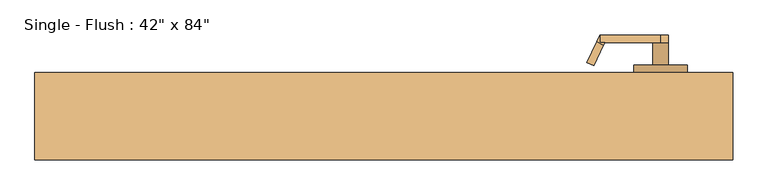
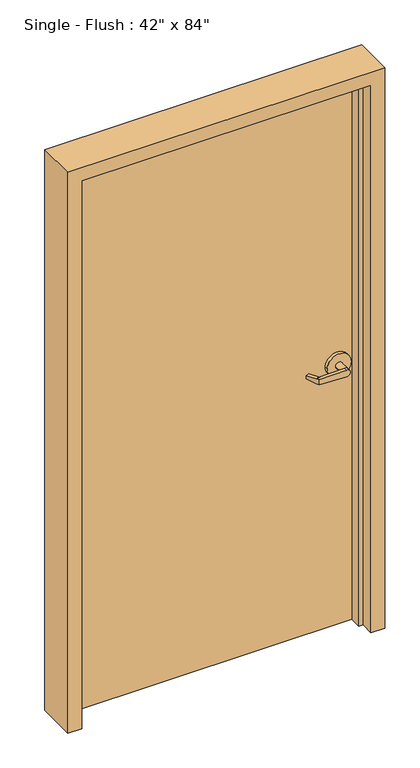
"""IFC4 building model written with IfcOpenShell, lengths in millimetres: door geometry."""

from ifc_helpers import new_model, si_unit, frame, origin, origin_with_axes, place, context, project, spatial, polyline, circle_curve, outline, extrude, faceted_brep, source, transform, mapped, element, save
from ifc_brep_helpers import plane_surface, cylinder_surface, advanced_brep


def door_364cf94f(model_context):
    return source(origin(), model_context, "Body", "SolidModel", [
        advanced_brep(
        [(952.292857, -24.3976392, 1006.475), (936.1911012, 10.1326875, 1009.65), (936.1911012, 10.1326875, 1022.35), (952.292857, -24.3976392, 1025.525), (954.2407923, -28.575, 1025.525), (954.2407923, -28.575, 1006.475), (946.15, -41.275, 1025.525), (940.7827481, -29.7648911, 1025.525), (924.6809923, 4.7654356, 1022.35), (924.6809923, 4.7654356, 1009.65), (940.7827481, -29.7648911, 1006.475), (946.15, -41.275, 1006.475), (946.15, -28.575, 1006.475), (946.15, -28.575, 1025.525), (1047.3525418, -41.275, 1003.3062209), (1047.3525418, -41.275, 1028.6937791), (1047.3525418, -28.575, 1028.6937791), (1035.05, -28.575, 1016.0), (1047.3525418, -28.575, 1003.3062209), (1060.45, -28.575, 1016.0), (1060.45, 9.525, 1016.0), (1035.05, 9.525, 1016.0), (1092.2, 9.525, 1016.0), (1003.3, 9.525, 1016.0), (1092.2, 22.225, 1016.0), (1003.3, 22.225, 1016.0)],
        [
            (0, 1),
            (1, 2),
            (2, 3),
            (3, 4),
            (4, 5),
            (5, 0),
            (6, 7),
            (7, 8),
            (8, 9),
            (9, 10),
            (10, 11),
            (11, 6),
            (10, 0),
            (5, 12),
            (12, 11),
            (9, 1),
            (8, 2),
            (7, 3),
            (6, 13),
            (13, 4),
            (11, 14),
            (14, 15, circle_curve(frame((1047.75, -41.275, 1016.0), z_axis=(0.0, -1.0, 0.0), x_axis=(-1.0, 0.0, 0.0)), 12.7)),
            (15, 6),
            (13, 16),
            (16, 17, circle_curve(frame((1047.75, -28.575, 1016.0), z_axis=(0.0, -1.0, 0.0), x_axis=(-1.0, 0.0, 0.0)), 12.7)),
            (17, 18, circle_curve(frame((1047.75, -28.575, 1016.0), z_axis=(0.0, -1.0, 0.0), x_axis=(-1.0, 0.0, 0.0)), 12.7)),
            (18, 12),
            (18, 14),
            (18, 19, circle_curve(frame((1047.75, -28.575, 1016.0), z_axis=(0.0, -1.0, 0.0), x_axis=(-1.0, 0.0, 0.0)), 12.7)),
            (19, 16, circle_curve(frame((1047.75, -28.575, 1016.0), z_axis=(0.0, -1.0, 0.0), x_axis=(-1.0, 0.0, 0.0)), 12.7)),
            (16, 15),
            (19, 20),
            (20, 21, circle_curve(frame((1047.75, 9.525, 1016.0), z_axis=(0.0, -1.0, 0.0), x_axis=(-1.0, 0.0, 0.0)), 12.7)),
            (21, 17),
            (21, 20, circle_curve(frame((1047.75, 9.525, 1016.0), z_axis=(0.0, -1.0, 0.0), x_axis=(-1.0, 0.0, 0.0)), 12.7)),
            (22, 23, circle_curve(frame((1047.75, 9.525, 1016.0), z_axis=(0.0, -1.0, 0.0), x_axis=(-1.0, 0.0, 0.0)), 44.45)),
            (23, 22, circle_curve(frame((1047.75, 9.525, 1016.0), z_axis=(0.0, -1.0, 0.0), x_axis=(-1.0, 0.0, 0.0)), 44.45)),
            (24, 25, circle_curve(frame((1047.75, 22.225, 1016.0), z_axis=(0.0, 1.0, 0.0), x_axis=(-1.0, 0.0, 0.0)), 44.45)),
            (25, 24, circle_curve(frame((1047.75, 22.225, 1016.0), z_axis=(0.0, 1.0, 0.0), x_axis=(-1.0, 0.0, 0.0)), 44.45)),
            (22, 24),
            (25, 23),
        ],
        [
            plane_surface(frame((957.6601089, -35.9077481, 1006.475), z_axis=(0.9063077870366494, 0.4226182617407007, 0.0), x_axis=(0.0, 0.0, -1.0))),
            plane_surface(frame((946.15, -41.275, 1006.475), z_axis=(-0.9063077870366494, -0.4226182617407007, 0.0), x_axis=(0.0, 0.0, 1.0))),
            plane_surface(frame((957.6601089, -35.9077481, 1006.475), z_axis=(0.0, 0.0, -1.0000000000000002), x_axis=(-0.9063077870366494, -0.42261826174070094, 0.0))),
            plane_surface(frame((952.292857, -24.3976392, 1006.475), z_axis=(-0.035096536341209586, 0.07526476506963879, -0.9965457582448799), x_axis=(-0.9063077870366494, -0.42261826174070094, 0.0))),
            plane_surface(frame((936.1911012, 10.1326875, 1009.65), z_axis=(-0.42261826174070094, 0.9063077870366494, 0.0), x_axis=(-0.9063077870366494, -0.42261826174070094, 0.0))),
            plane_surface(frame((936.1911012, 10.1326875, 1022.35), z_axis=(-0.03509653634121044, 0.07526476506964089, 0.9965457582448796), x_axis=(-0.9063077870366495, -0.42261826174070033, 0.0))),
            plane_surface(frame((952.292857, -24.3976392, 1025.525), z_axis=(0.0, 0.0, 1.0000000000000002), x_axis=(-0.9063077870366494, -0.42261826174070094, 0.0))),
            plane_surface(frame((946.15, -41.275, 1006.475), z_axis=(0.0, -1.0, 0.0), x_axis=(0.9995101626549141, 0.0, -0.03129592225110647))),
            plane_surface(frame((946.15, -28.575, 1006.475), z_axis=(0.0, 1.0, 0.0), x_axis=(-0.9995101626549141, 0.0, 0.03129592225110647))),
            plane_surface(frame((946.15, -41.275, 1006.475), z_axis=(-0.03129592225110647, 0.0, -0.9995101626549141), x_axis=(0.0, 1.0, 0.0))),
            cylinder_surface(frame((1047.75, -28.575, 1016.0), z_axis=(0.0, -1.0, 0.0), x_axis=(-1.0, 0.0, 0.0)), 12.7),
            plane_surface(frame((1047.3525418, -41.275, 1028.6937791), z_axis=(-0.03129592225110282, 0.0, 0.9995101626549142), x_axis=(0.0, 1.0, 0.0))),
            cylinder_surface(frame((1047.75, 9.525, 1016.0), z_axis=(0.0, -1.0, 0.0), x_axis=(-1.0, 0.0, 0.0)), 12.7),
            plane_surface(frame((1003.3, 9.525, 1016.0), z_axis=(0.0, -1.0, 0.0), x_axis=(0.0, 0.0, -1.0))),
            plane_surface(frame((1003.3, 22.225, 1016.0), z_axis=(0.0, 1.0, 0.0), x_axis=(0.0, 0.0, 1.0))),
            cylinder_surface(frame((1047.75, 22.225, 1016.0), z_axis=(0.0, -1.0, 0.0), x_axis=(-1.0, 0.0, 0.0)), 44.45),
        ],
        [
            (0, [[1, 2, 3, 4, 5, 6]]),
            (1, [[7, 8, 9, 10, 11, 12]]),
            (2, [[-11, 13, -6, 14, 15]]),
            (3, [[-1, -13, -10, 16]]),
            (4, [[-2, -16, -9, 17]]),
            (5, [[-3, -17, -8, 18]]),
            (6, [[-7, 19, 20, -4, -18]]),
            (7, [[21, 22, 23, -12]]),
            (8, [[24, 25, 26, 27, -14, -5, -20]]),
            (9, [[-21, -15, -27, 28]]),
            (10, [[-22, -28, 29, 30, 31]]),
            (11, [[-23, -31, -24, -19]]),
            (12, [[32, 33, 34, -25, -30]]),
            (12, [[-32, -29, -26, -34, 35]]),
            (13, [[36, 37], [-33, -35]]),
            (14, [[38, 39]]),
            (15, [[-36, 40, -39, 41]]),
            (15, [[-37, -41, -38, -40]]),
        ],
    ),
        advanced_brep(
        [(952.292857, 119.6476392, 1025.525), (936.1911012, 85.1173125, 1022.35), (936.1911012, 85.1173125, 1009.65), (952.292857, 119.6476392, 1006.475), (954.2407923, 123.825, 1006.475), (954.2407923, 123.825, 1025.525), (946.15, 136.525, 1006.475), (940.7827481, 125.0148911, 1006.475), (924.6809923, 90.4845644, 1009.65), (924.6809923, 90.4845644, 1022.35), (940.7827481, 125.0148911, 1025.525), (946.15, 136.525, 1025.525), (946.15, 123.825, 1025.525), (946.15, 123.825, 1006.475), (1047.3525418, 136.525, 1028.6937791), (1047.3525418, 136.525, 1003.3062209), (1047.3525418, 123.825, 1003.3062209), (1035.05, 123.825, 1016.0), (1047.3525418, 123.825, 1028.6937791), (1060.45, 123.825, 1016.0), (1060.45, 85.725, 1016.0), (1035.05, 85.725, 1016.0), (1092.2, 85.725, 1016.0), (1003.3, 85.725, 1016.0), (1092.2, 73.025, 1016.0), (1003.3, 73.025, 1016.0)],
        [
            (0, 1),
            (1, 2),
            (2, 3),
            (3, 4),
            (4, 5),
            (5, 0),
            (6, 7),
            (7, 8),
            (8, 9),
            (9, 10),
            (10, 11),
            (11, 6),
            (10, 0),
            (5, 12),
            (12, 11),
            (9, 1),
            (8, 2),
            (7, 3),
            (6, 13),
            (13, 4),
            (11, 14),
            (14, 15, circle_curve(frame((1047.75, 136.525, 1016.0), z_axis=(0.0, 1.0, 0.0), x_axis=(-1.0, 0.0, 0.0)), 12.7)),
            (15, 6),
            (13, 16),
            (16, 17, circle_curve(frame((1047.75, 123.825, 1016.0), z_axis=(0.0, 1.0, 0.0), x_axis=(-1.0, 0.0, 0.0)), 12.7)),
            (17, 18, circle_curve(frame((1047.75, 123.825, 1016.0), z_axis=(0.0, 1.0, 0.0), x_axis=(-1.0, 0.0, 0.0)), 12.7)),
            (18, 12),
            (18, 14),
            (18, 19, circle_curve(frame((1047.75, 123.825, 1016.0), z_axis=(0.0, 1.0, 0.0), x_axis=(-1.0, 0.0, 0.0)), 12.7)),
            (19, 16, circle_curve(frame((1047.75, 123.825, 1016.0), z_axis=(0.0, 1.0, 0.0), x_axis=(-1.0, 0.0, 0.0)), 12.7)),
            (16, 15),
            (19, 20),
            (20, 21, circle_curve(frame((1047.75, 85.725, 1016.0), z_axis=(0.0, 1.0, 0.0), x_axis=(-1.0, 0.0, 0.0)), 12.7)),
            (21, 17),
            (21, 20, circle_curve(frame((1047.75, 85.725, 1016.0), z_axis=(0.0, 1.0, 0.0), x_axis=(-1.0, 0.0, 0.0)), 12.7)),
            (22, 23, circle_curve(frame((1047.75, 85.725, 1016.0), z_axis=(0.0, 1.0, 0.0), x_axis=(-1.0, 0.0, 0.0)), 44.45)),
            (23, 22, circle_curve(frame((1047.75, 85.725, 1016.0), z_axis=(0.0, 1.0, 0.0), x_axis=(-1.0, 0.0, 0.0)), 44.45)),
            (24, 25, circle_curve(frame((1047.75, 73.025, 1016.0), z_axis=(0.0, -1.0, 0.0), x_axis=(-1.0, 0.0, 0.0)), 44.45)),
            (25, 24, circle_curve(frame((1047.75, 73.025, 1016.0), z_axis=(0.0, -1.0, 0.0), x_axis=(-1.0, 0.0, 0.0)), 44.45)),
            (22, 24),
            (25, 23),
        ],
        [
            plane_surface(frame((957.6601089, 131.1577481, 1025.525), z_axis=(0.9063077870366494, -0.4226182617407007, 0.0), x_axis=(0.0, 0.0, 1.0))),
            plane_surface(frame((946.15, 136.525, 1025.525), z_axis=(-0.9063077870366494, 0.4226182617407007, 0.0), x_axis=(0.0, 0.0, -1.0))),
            plane_surface(frame((957.6601089, 131.1577481, 1025.525), z_axis=(0.0, 0.0, 1.0000000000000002), x_axis=(-0.9063077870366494, 0.42261826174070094, 0.0))),
            plane_surface(frame((952.292857, 119.6476392, 1025.525), z_axis=(-0.03509653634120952, -0.07526476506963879, 0.9965457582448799), x_axis=(-0.9063077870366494, 0.42261826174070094, 0.0))),
            plane_surface(frame((936.1911012, 85.1173125, 1022.35), z_axis=(-0.42261826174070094, -0.9063077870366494, 0.0), x_axis=(-0.9063077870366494, 0.42261826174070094, 0.0))),
            plane_surface(frame((936.1911012, 85.1173125, 1009.65), z_axis=(-0.03509653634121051, -0.07526476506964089, -0.9965457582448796), x_axis=(-0.9063077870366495, 0.42261826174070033, 0.0))),
            plane_surface(frame((952.292857, 119.6476392, 1006.475), z_axis=(0.0, 0.0, -1.0000000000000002), x_axis=(-0.9063077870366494, 0.42261826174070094, 0.0))),
            plane_surface(frame((946.15, 136.525, 1025.525), z_axis=(0.0, 1.0, 0.0), x_axis=(0.9995101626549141, 0.0, 0.0312959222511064))),
            plane_surface(frame((946.15, 123.825, 1025.525), z_axis=(0.0, -1.0, 0.0), x_axis=(-0.9995101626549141, 0.0, -0.0312959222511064))),
            plane_surface(frame((946.15, 136.525, 1025.525), z_axis=(-0.0312959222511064, 0.0, 0.9995101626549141), x_axis=(0.0, -1.0, 0.0))),
            cylinder_surface(frame((1047.75, 123.825, 1016.0), z_axis=(0.0, 1.0, 0.0), x_axis=(-1.0, 0.0, 0.0)), 12.7),
            plane_surface(frame((1047.3525418, 136.525, 1003.3062209), z_axis=(-0.03129592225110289, 0.0, -0.9995101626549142), x_axis=(0.0, -1.0, 0.0))),
            cylinder_surface(frame((1047.75, 85.725, 1016.0), z_axis=(0.0, 1.0, 0.0), x_axis=(-1.0, 0.0, 0.0)), 12.7),
            plane_surface(frame((1003.3, 85.725, 1016.0), z_axis=(0.0, 1.0, 0.0), x_axis=(0.0, 0.0, 1.0))),
            plane_surface(frame((1003.3, 73.025, 1016.0), z_axis=(0.0, -1.0, 0.0), x_axis=(0.0, 0.0, -1.0))),
            cylinder_surface(frame((1047.75, 73.025, 1016.0), z_axis=(0.0, 1.0, 0.0), x_axis=(-1.0, 0.0, 0.0)), 44.45),
        ],
        [
            (0, [[1, 2, 3, 4, 5, 6]]),
            (1, [[7, 8, 9, 10, 11, 12]]),
            (2, [[-11, 13, -6, 14, 15]]),
            (3, [[-1, -13, -10, 16]]),
            (4, [[-2, -16, -9, 17]]),
            (5, [[-3, -17, -8, 18]]),
            (6, [[-7, 19, 20, -4, -18]]),
            (7, [[21, 22, 23, -12]]),
            (8, [[24, 25, 26, 27, -14, -5, -20]]),
            (9, [[-21, -15, -27, 28]]),
            (10, [[-22, -28, 29, 30, 31]]),
            (11, [[-23, -31, -24, -19]]),
            (12, [[32, 33, 34, -25, -30]]),
            (12, [[-32, -29, -26, -34, 35]]),
            (13, [[36, 37], [-33, -35]]),
            (14, [[38, 39]]),
            (15, [[-36, 40, -39, 41]]),
            (15, [[-37, -41, -38, -40]]),
        ],
    ),
        extrude(outline(polyline([(50.8, 73.025), (1117.6, 73.025), (1117.6, 22.225), (50.8, 22.225), (50.8, 73.025)])), origin_with_axes(), (0.0, 0.0, 1.0), 2133.6),
        faceted_brep([(50.8, 73.025, 0.0), (50.8, 22.225, 0.0), (66.675, 22.225, 0.0), (66.675, -22.225, 0.0), (50.8, -22.225, 0.0), (50.8, -73.025, 0.0), (0.0, -73.025, 0.0), (0.0, 73.025, 0.0), (50.8, 73.025, 2133.6), (50.8, 22.225, 2133.6), (1117.6, 22.225, 2133.6), (1117.6, 22.225, 0.0), (1101.725, 22.225, 0.0), (1101.725, 22.225, 2117.725), (66.675, 22.225, 2117.725), (66.675, -22.225, 2117.725), (1101.725, -22.225, 2117.725), (1101.725, -22.225, 0.0), (1117.6, -22.225, 0.0), (1117.6, -22.225, 2133.6), (50.8, -22.225, 2133.6), (50.8, -73.025, 2133.6), (1117.6, -73.025, 2133.6), (1117.6, -73.025, 0.0), (1168.4, -73.025, 0.0), (1168.4, -73.025, 2184.4), (0.0, -73.025, 2184.4), (0.0, 73.025, 2184.4), (1168.4, 73.025, 2184.4), (1168.4, 73.025, 0.0), (1117.6, 73.025, 0.0), (1117.6, 73.025, 2133.6)], [[[0, 1, 2, 3, 4, 5, 6, 7]], [[1, 0, 8, 9]], [[2, 1, 9, 10, 11, 12, 13, 14]], [[3, 2, 14, 15]], [[4, 3, 15, 16, 17, 18, 19, 20]], [[5, 4, 20, 21]], [[6, 5, 21, 22, 23, 24, 25, 26]], [[7, 6, 26, 27]], [[0, 7, 27, 28, 29, 30, 31, 8]], [[30, 11, 10, 31]], [[30, 29, 24, 23, 18, 17, 12, 11]], [[12, 17, 16, 13]], [[19, 18, 23, 22]], [[29, 28, 25, 24]], [[10, 9, 8, 31]], [[15, 14, 13, 16]], [[21, 20, 19, 22]], [[25, 28, 27, 26]]]),
    ])


if __name__ == "__main__":
    model = new_model("IFC4")
    model_context = context("Model", 3, world=origin())
    ifc_project = project(units=[si_unit("LENGTHUNIT", "METRE", prefix="MILLI")], contexts=[model_context])
    site = spatial("IfcSite", under=ifc_project)
    building = spatial("IfcBuilding", under=site)
    placement = place(None, origin())
    door_shape = door_364cf94f(model_context)
    element("IfcDoor", 1, ObjectType="Single - Flush : 42\" x 84\"", at=placement, inside=building, context=model_context, shape_type="MappedRepresentation", body=[
        mapped(door_shape, transform((0.0, 0.0, 0.0), x_axis=(1.0, 0.0, 0.0), y_axis=(0.0, 1.0, 0.0), z_axis=(0.0, 0.0, 1.0))),
    ])
    save(model, "model.ifc")
